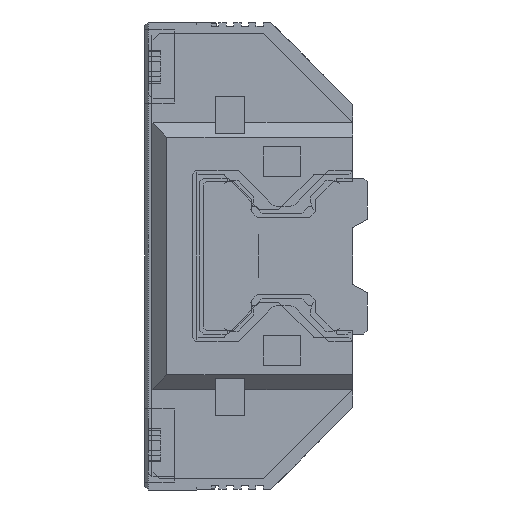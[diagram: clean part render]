
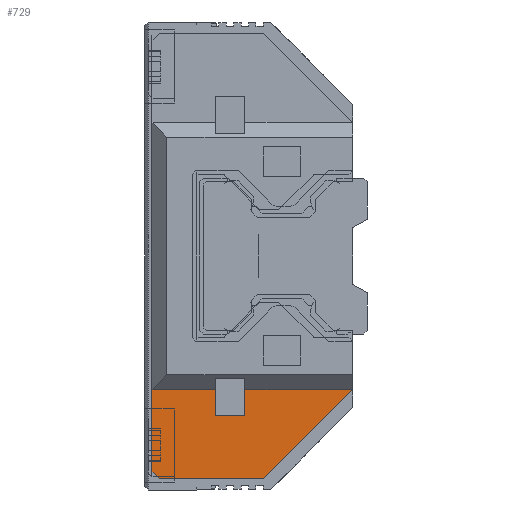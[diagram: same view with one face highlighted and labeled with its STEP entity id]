
A CAD part, left-side view. The second image highlights one B-rep face of the part: STEP entity #729.
In plain terms, the highlighted planar face has unit normal (-1, 0, 0).
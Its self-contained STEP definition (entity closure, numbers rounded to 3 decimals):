
#729 = ADVANCED_FACE( '', ( #2385 ), #2386, .T. );
#2385 = FACE_OUTER_BOUND( '', #4217, .T. );
#2386 = PLANE( '', #4218 );
#4217 = EDGE_LOOP( '', ( #8643, #8644, #8645, #8646, #8647, #8648, #8649, #8650, #8651 ) );
#4218 = AXIS2_PLACEMENT_3D( '', #8652, #8653, #8654 );
#8643 = ORIENTED_EDGE( '', *, *, #11284, .F. );
#8644 = ORIENTED_EDGE( '', *, *, #11117, .F. );
#8645 = ORIENTED_EDGE( '', *, *, #11102, .F. );
#8646 = ORIENTED_EDGE( '', *, *, #11146, .F. );
#8647 = ORIENTED_EDGE( '', *, *, #11144, .F. );
#8648 = ORIENTED_EDGE( '', *, *, #11142, .F. );
#8649 = ORIENTED_EDGE( '', *, *, #11114, .F. );
#8650 = ORIENTED_EDGE( '', *, *, #11283, .T. );
#8651 = ORIENTED_EDGE( '', *, *, #11278, .T. );
#8652 = CARTESIAN_POINT( '', ( -49., 46., -18. ) );
#8653 = DIRECTION( '', ( -1., 0., 0. ) );
#8654 = DIRECTION( '', ( 0., 0., 1. ) );
#11102 = EDGE_CURVE( '', #13638, #13639, #13640, .T. );
#11114 = EDGE_CURVE( '', #13659, #13661, #13662, .T. );
#11117 = EDGE_CURVE( '', #13639, #13655, #13665, .T. );
#11142 = EDGE_CURVE( '', #13661, #13708, #13709, .T. );
#11144 = EDGE_CURVE( '', #13708, #13711, #13712, .T. );
#11146 = EDGE_CURVE( '', #13711, #13638, #13714, .T. );
#11278 = EDGE_CURVE( '', #13927, #13931, #13933, .T. );
#11283 = EDGE_CURVE( '', #13659, #13927, #13940, .T. );
#11284 = EDGE_CURVE( '', #13655, #13931, #13941, .T. );
#13638 = VERTEX_POINT( '', #17117 );
#13639 = VERTEX_POINT( '', #17118 );
#13640 = LINE( '', #17119, #17120 );
#13655 = VERTEX_POINT( '', #17143 );
#13659 = VERTEX_POINT( '', #17149 );
#13661 = VERTEX_POINT( '', #17152 );
#13662 = LINE( '', #17153, #17154 );
#13665 = LINE( '', #17159, #17160 );
#13708 = VERTEX_POINT( '', #17227 );
#13709 = LINE( '', #17228, #17229 );
#13711 = VERTEX_POINT( '', #17232 );
#13712 = LINE( '', #17233, #17234 );
#13714 = LINE( '', #17237, #17238 );
#13927 = VERTEX_POINT( '', #17569 );
#13931 = VERTEX_POINT( '', #17575 );
#13933 = LINE( '', #17578, #17579 );
#13940 = LINE( '', #17590, #17591 );
#13941 = LINE( '', #17592, #17593 );
#17117 = CARTESIAN_POINT( '', ( -49., 17.7, -29. ) );
#17118 = CARTESIAN_POINT( '', ( -49., 17.7, -18. ) );
#17119 = CARTESIAN_POINT( '', ( -49., 17.7, -29. ) );
#17120 = VECTOR( '', #20494, 1000. );
#17143 = CARTESIAN_POINT( '', ( -49., 9.2, -18. ) );
#17149 = CARTESIAN_POINT( '', ( -49., 5.2, -18. ) );
#17152 = CARTESIAN_POINT( '', ( -49., -9.3, -18. ) );
#17153 = CARTESIAN_POINT( '', ( -49., 46., -18. ) );
#17154 = VECTOR( '', #20506, 1000. );
#17159 = CARTESIAN_POINT( '', ( -49., 46., -18. ) );
#17160 = VECTOR( '', #20509, 1000. );
#17227 = CARTESIAN_POINT( '', ( -49., 2.7, -30. ) );
#17228 = CARTESIAN_POINT( '', ( -49., -9.3, -18. ) );
#17229 = VECTOR( '', #20534, 1000. );
#17232 = CARTESIAN_POINT( '', ( -49., 16.7, -30. ) );
#17233 = CARTESIAN_POINT( '', ( -49., 2.7, -30. ) );
#17234 = VECTOR( '', #20536, 1000. );
#17237 = CARTESIAN_POINT( '', ( -49., 16.7, -30. ) );
#17238 = VECTOR( '', #20538, 1000. );
#17569 = CARTESIAN_POINT( '', ( -49., 5.2, -21.5 ) );
#17575 = CARTESIAN_POINT( '', ( -49., 9.2, -21.5 ) );
#17578 = CARTESIAN_POINT( '', ( -49., 46., -21.5 ) );
#17579 = VECTOR( '', #20690, 1000. );
#17590 = CARTESIAN_POINT( '', ( -49., 5.2, -18. ) );
#17591 = VECTOR( '', #20695, 1000. );
#17592 = CARTESIAN_POINT( '', ( -49., 9.2, -18. ) );
#17593 = VECTOR( '', #20696, 1000. );
#20494 = DIRECTION( '', ( 0., 0., 1. ) );
#20506 = DIRECTION( '', ( 0., -1., 0. ) );
#20509 = DIRECTION( '', ( 0., -1., 0. ) );
#20534 = DIRECTION( '', ( 0., 0.707, -0.707 ) );
#20536 = DIRECTION( '', ( 0., 1., 0. ) );
#20538 = DIRECTION( '', ( 0., 0.707, 0.707 ) );
#20690 = DIRECTION( '', ( 0., 1., 0. ) );
#20695 = DIRECTION( '', ( 0., 0., -1. ) );
#20696 = DIRECTION( '', ( 0., 0., -1. ) );
